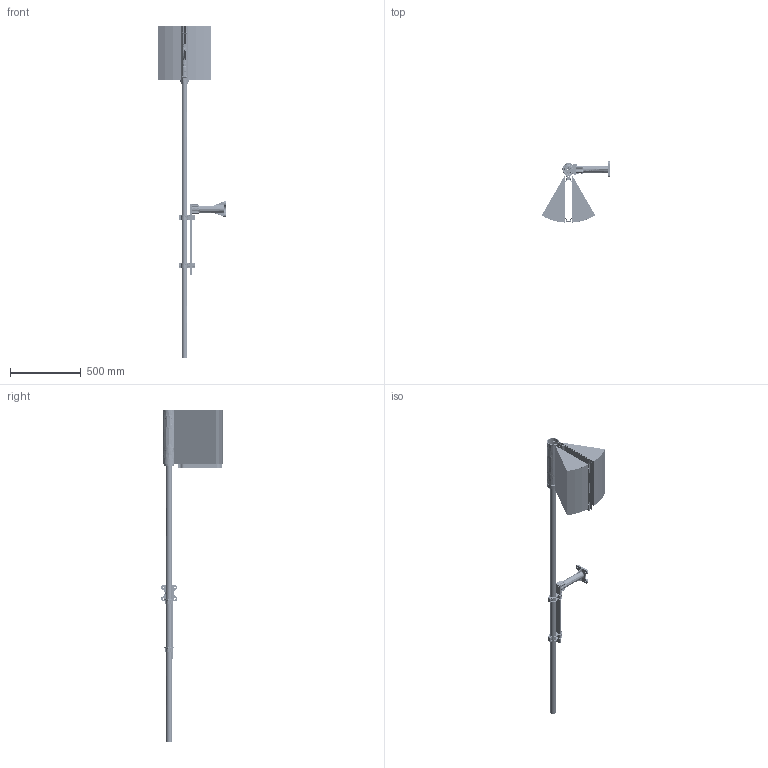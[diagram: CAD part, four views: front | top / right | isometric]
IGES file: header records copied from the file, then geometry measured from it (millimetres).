
Start section: SolidWorks IGES file using analytic representation for surfaces
Global section: file name: C:\Users\aloerke\Desktop\Arbeits-Ordner\Andreas\TD愀\LZY714.TD.42050_D3_Beckenrandbefestigung.IGS,; native system: SolidWorks 2023; preprocessor: SolidWorks 2023; author: aloerke; date: 240611.094031; units: millimetre
Bounding box: 486.75 x 437.7 x 2353 mm (x, y, z)
Surface area: 2625775.9 mm2 (no closed solid volume)
Topology: 0 solids, 0 shells, 7154 faces, 67640 edges, 66993 vertices
Faces by surface type: bspline 3684, revolution 3470
